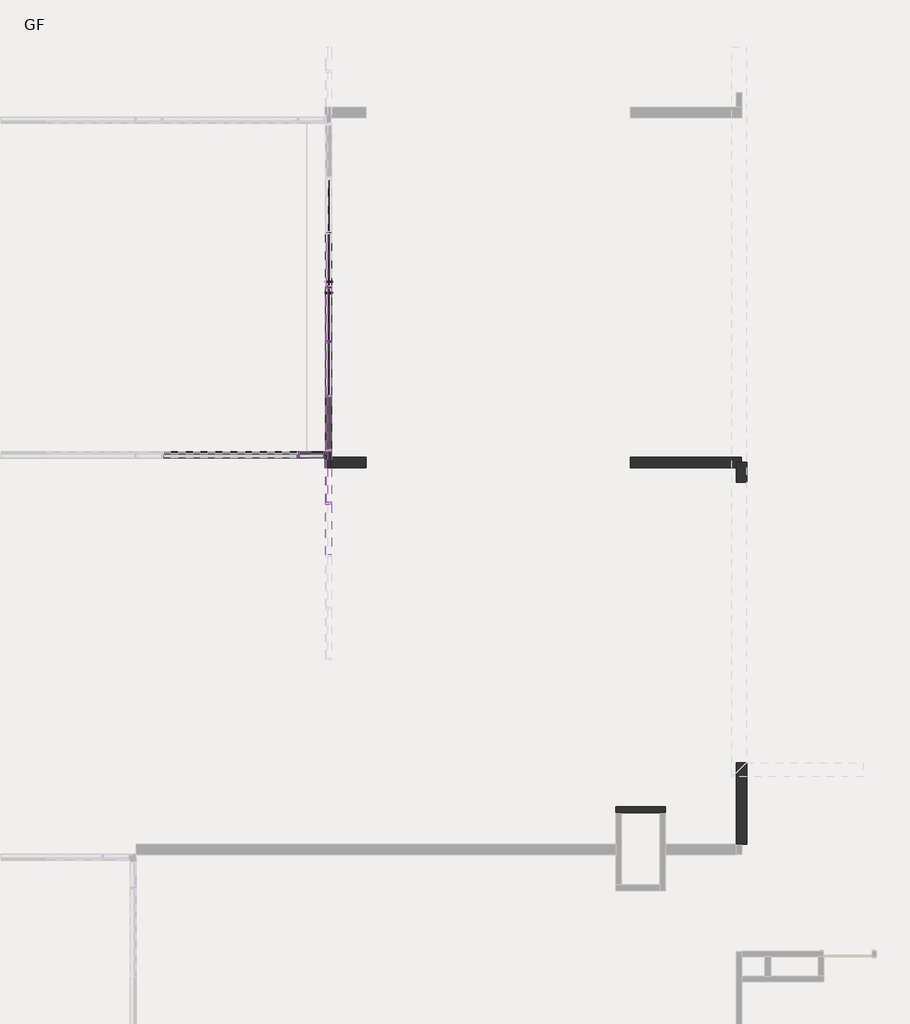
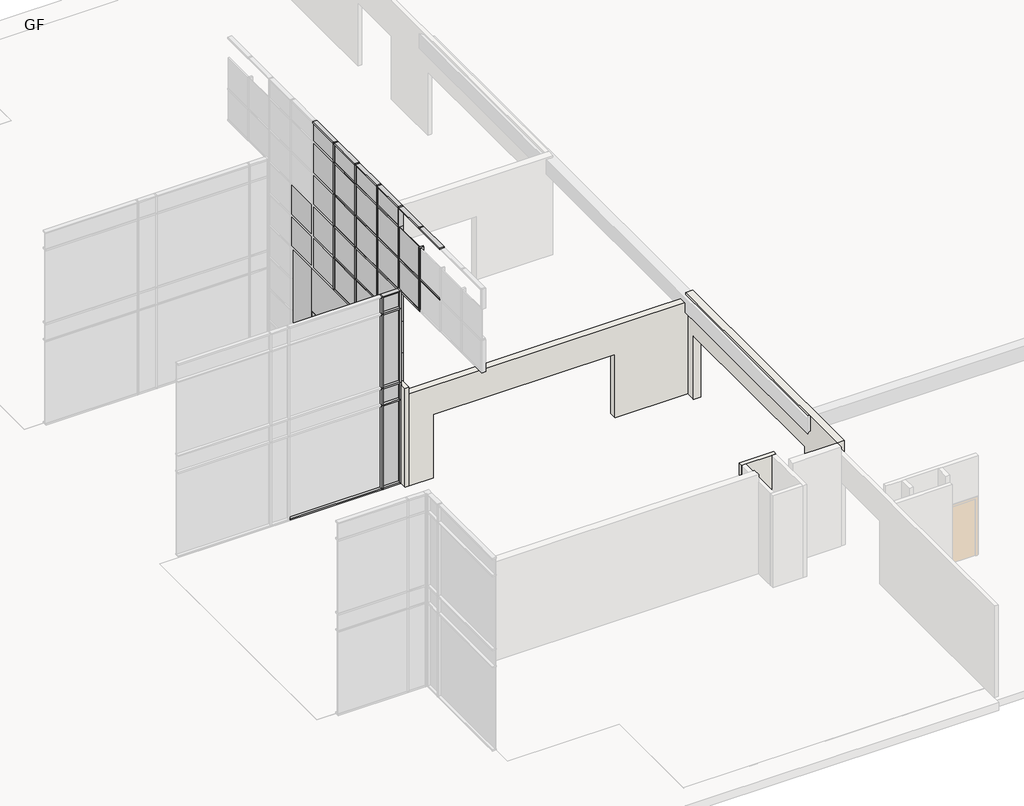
# One storey, part 6 of 23: 77 members, 33 plates, 4 walls.
"""IFC4 building model written with IfcOpenShell, lengths in millimetres."""

from ifc_helpers import new_model, si_unit, origin, place, context, project, spatial, faceted_brep, transform, mapped, element, save
from components import rectangular_mullion_50_x_150mm_68b3818a, rectangular_mullion_50_x_150mm_64d38db8, rectangular_mullion_50_x_150mm_d11e3bb4, rectangular_mullion_50_x_150mm_7d543e93, rectangular_mullion_50_x_150mm_9e0f1e24, rectangular_mullion_50_x_150mm_9b8962c0, rectangular_mullion_50_x_150mm_32aaa733, rectangular_mullion_50_x_150mm_dbb82e9e, rectangular_mullion_50_x_150mm_eae7d4bc, rectangular_mullion_50_x_150mm_53b4c1bd, rectangular_mullion_50_x_150mm_a5886fcf, rectangular_mullion_50_x_150mm_d99dc9be, rectangular_mullion_50_x_150mm_6588f46c, rectangular_mullion_50_x_150mm_73a7075e, rectangular_mullion_50_x_150mm_eaf4cf72, rectangular_mullion_50_x_150mm_0d3281e4, rectangular_mullion_50_x_150mm_457f9466, rectangular_mullion_50_x_150mm_a24dcaed, rectangular_mullion_50_x_150mm_2a846207, rectangular_mullion_50_x_150mm_b683183c, rectangular_mullion_50_x_150mm_bb4106bb, rectangular_mullion_50_x_150mm_ab14a89a, curtain_wall_interior_partition_with_doors_m_interior_a32743dc, system_panel_glazed_6ff5b55b, system_panel_glazed_93ed122c, system_panel_glazed_2ee935f9, system_panel_glazed_4108eabc, system_panel_glazed_0d58ddbb, system_panel_glazed_15d9a341, system_panel_glazed_6cc28878, system_panel_glazed_1cdce68f

model = new_model("IFC4")

# Units and contexts
model_context = context("Model", 3, world=origin())
ifc_project = project(units=[si_unit("LENGTHUNIT", "METRE", prefix="MILLI")], contexts=[model_context])

# Site, building, storey
site = spatial("IfcSite", under=ifc_project)
building = spatial("IfcBuilding", under=site)
storey = spatial("IfcBuildingStorey", under=building, Name="GF", Elevation=900.0)

# Members
placement = place(None, origin())
rectangular_mullion_50_x_150mm_shape = rectangular_mullion_50_x_150mm_68b3818a(model_context)
element("IfcMember", 1, ObjectType="Rectangular Mullion : 50 x 150mm", at=placement, inside=storey, context=model_context, shape_type="MappedRepresentation", body=[
    mapped(rectangular_mullion_50_x_150mm_shape, transform((-31537.5865899, -6397.6148653, 7525.0), x_axis=(0.0, 0.0, 1.0), y_axis=(0.0, 1.0, 0.0), z_axis=(-1.0, 0.0, 0.0))),
])
element("IfcMember", 2, ObjectType="Rectangular Mullion : 50 x 150mm", at=placement, inside=storey, context=model_context, shape_type="MappedRepresentation", body=[
    mapped(rectangular_mullion_50_x_150mm_shape, transform((-31537.5865899, -6397.6148653, 4075.0), x_axis=(0.0, 0.0, 1.0), y_axis=(0.0, 1.0, 0.0), z_axis=(-1.0, 0.0, 0.0))),
])
element("IfcMember", 3, ObjectType="Rectangular Mullion : 50 x 150mm", at=placement, inside=storey, context=model_context, shape_type="MappedRepresentation", body=[
    mapped(rectangular_mullion_50_x_150mm_shape, transform((-31537.5865899, -6397.6148653, 4725.0), x_axis=(0.0, 0.0, 1.0), y_axis=(0.0, 1.0, 0.0), z_axis=(-1.0, 0.0, 0.0))),
])
rectangular_mullion_50_x_150mm_2_shape = rectangular_mullion_50_x_150mm_64d38db8(model_context)
element("IfcMember", 4, ObjectType="Rectangular Mullion : 50 x 150mm", at=placement, inside=storey, context=model_context, shape_type="MappedRepresentation", body=[
    mapped(rectangular_mullion_50_x_150mm_2_shape, transform((-31537.5865899, -6397.6148653, 8200.0), x_axis=(0.0, 0.0, 1.0), y_axis=(0.0, 1.0, 0.0), z_axis=(-1.0, 0.0, 0.0))),
])
element("IfcMember", 5, ObjectType="Rectangular Mullion : 50 x 150mm", at=placement, inside=storey, context=model_context, shape_type="MappedRepresentation", body=[
    mapped(rectangular_mullion_50_x_150mm_2_shape, transform((-30937.5865899, -6397.6148653, 900.0), x_axis=(0.0, 0.0, -1.0), y_axis=(0.0, 1.0, 0.0), z_axis=(1.0, 0.0, 0.0))),
])
rectangular_mullion_50_x_150mm_3_shape = rectangular_mullion_50_x_150mm_d11e3bb4(model_context)
element("IfcMember", 6, ObjectType="Rectangular Mullion : 50 x 150mm", at=placement, inside=storey, context=model_context, shape_type="MappedRepresentation", body=[
    mapped(rectangular_mullion_50_x_150mm_3_shape, transform((-31562.5865899, -6397.6148653, 4725.0), x_axis=(-1.0, 0.0, 0.0), y_axis=(0.0, 1.0, 0.0), z_axis=(0.0, 0.0, -1.0))),
])
rectangular_mullion_50_x_150mm_4_shape = rectangular_mullion_50_x_150mm_7d543e93(model_context)
element("IfcMember", 7, ObjectType="Rectangular Mullion : 50 x 150mm", at=placement, inside=storey, context=model_context, shape_type="MappedRepresentation", body=[
    mapped(rectangular_mullion_50_x_150mm_4_shape, transform((-31562.5865899, -6397.6148653, 4075.0), x_axis=(-1.0, 0.0, 0.0), y_axis=(0.0, 1.0, 0.0), z_axis=(0.0, 0.0, -1.0))),
])
rectangular_mullion_50_x_150mm_5_shape = rectangular_mullion_50_x_150mm_9e0f1e24(model_context)
element("IfcMember", 8, ObjectType="Rectangular Mullion : 50 x 150mm", at=placement, inside=storey, context=model_context, shape_type="MappedRepresentation", body=[
    mapped(rectangular_mullion_50_x_150mm_5_shape, transform((-31562.5865899, -6397.6148653, 7525.0), x_axis=(-1.0, 0.0, 0.0), y_axis=(0.0, 1.0, 0.0), z_axis=(0.0, 0.0, -1.0))),
])
rectangular_mullion_50_x_150mm_6_shape = rectangular_mullion_50_x_150mm_9b8962c0(model_context)
element("IfcMember", 9, ObjectType="Rectangular Mullion : 50 x 150mm", at=placement, inside=storey, context=model_context, shape_type="MappedRepresentation", body=[
    mapped(rectangular_mullion_50_x_150mm_6_shape, transform((-30887.5865899, -6397.6148653, 4725.0), x_axis=(1.0, 0.0, 0.0), y_axis=(0.0, 1.0, 0.0), z_axis=(0.0, 0.0, 1.0))),
])
rectangular_mullion_50_x_150mm_7_shape = rectangular_mullion_50_x_150mm_32aaa733(model_context)
element("IfcMember", 10, ObjectType="Rectangular Mullion : 50 x 150mm", at=placement, inside=storey, context=model_context, shape_type="MappedRepresentation", body=[
    mapped(rectangular_mullion_50_x_150mm_7_shape, transform((-30887.5865899, -6397.6148653, 7525.0), x_axis=(1.0, 0.0, 0.0), y_axis=(0.0, 1.0, 0.0), z_axis=(0.0, 0.0, 1.0))),
])
rectangular_mullion_50_x_150mm_8_shape = rectangular_mullion_50_x_150mm_dbb82e9e(model_context)
element("IfcMember", 11, ObjectType="Rectangular Mullion : 50 x 150mm", at=placement, inside=storey, context=model_context, shape_type="MappedRepresentation", body=[
    mapped(rectangular_mullion_50_x_150mm_8_shape, transform((-30887.5865899, -6397.6148653, 8200.0), x_axis=(1.0, 0.0, 0.0), y_axis=(0.0, 1.0, 0.0), z_axis=(0.0, 0.0, 1.0))),
])
rectangular_mullion_50_x_150mm_9_shape = rectangular_mullion_50_x_150mm_eae7d4bc(model_context)
element("IfcMember", 12, ObjectType="Rectangular Mullion : 50 x 150mm", at=placement, inside=storey, context=model_context, shape_type="MappedRepresentation", body=[
    mapped(rectangular_mullion_50_x_150mm_9_shape, transform((-31562.5865899, -6397.6148653, 900.0), x_axis=(-1.0, 0.0, 0.0), y_axis=(0.0, 1.0, 0.0), z_axis=(0.0, 0.0, -1.0))),
])
rectangular_mullion_50_x_150mm_10_shape = rectangular_mullion_50_x_150mm_53b4c1bd(model_context)
element("IfcMember", 13, ObjectType="Rectangular Mullion : 50 x 150mm", at=placement, inside=storey, context=model_context, shape_type="MappedRepresentation", body=[
    mapped(rectangular_mullion_50_x_150mm_10_shape, transform((-30812.5865899, -4985.9481986, 11250.0), x_axis=(0.0, 0.0, 1.0), y_axis=(1.0, 0.0, 0.0), z_axis=(0.0, 1.0, 0.0))),
])
element("IfcMember", 14, ObjectType="Rectangular Mullion : 50 x 150mm", at=placement, inside=storey, context=model_context, shape_type="MappedRepresentation", body=[
    mapped(rectangular_mullion_50_x_150mm_10_shape, transform((-30812.5865899, -3649.2815319, 11250.0), x_axis=(0.0, 0.0, 1.0), y_axis=(1.0, 0.0, 0.0), z_axis=(0.0, 1.0, 0.0))),
])
element("IfcMember", 15, ObjectType="Rectangular Mullion : 50 x 150mm", at=placement, inside=storey, context=model_context, shape_type="MappedRepresentation", body=[
    mapped(rectangular_mullion_50_x_150mm_10_shape, transform((-30812.5865899, -2312.6148653, 11250.0), x_axis=(0.0, 0.0, 1.0), y_axis=(1.0, 0.0, 0.0), z_axis=(0.0, 1.0, 0.0))),
])
element("IfcMember", 16, ObjectType="Rectangular Mullion : 50 x 150mm", at=placement, inside=storey, context=model_context, shape_type="MappedRepresentation", body=[
    mapped(rectangular_mullion_50_x_150mm_10_shape, transform((-30812.5865899, -975.9481986, 11250.0), x_axis=(0.0, 0.0, 1.0), y_axis=(1.0, 0.0, 0.0), z_axis=(0.0, 1.0, 0.0))),
])
rectangular_mullion_50_x_150mm_11_shape = rectangular_mullion_50_x_150mm_a5886fcf(model_context)
element("IfcMember", 17, ObjectType="Rectangular Mullion : 50 x 150mm", at=placement, inside=storey, context=model_context, shape_type="MappedRepresentation", body=[
    mapped(rectangular_mullion_50_x_150mm_11_shape, transform((-30812.5865899, -4985.9481986, 9300.0), x_axis=(0.0, 0.0, 1.0), y_axis=(1.0, 0.0, 0.0), z_axis=(0.0, 1.0, 0.0))),
])
element("IfcMember", 18, ObjectType="Rectangular Mullion : 50 x 150mm", at=placement, inside=storey, context=model_context, shape_type="MappedRepresentation", body=[
    mapped(rectangular_mullion_50_x_150mm_11_shape, transform((-30812.5865899, -3649.2815319, 9300.0), x_axis=(0.0, 0.0, 1.0), y_axis=(1.0, 0.0, 0.0), z_axis=(0.0, 1.0, 0.0))),
])
element("IfcMember", 19, ObjectType="Rectangular Mullion : 50 x 150mm", at=placement, inside=storey, context=model_context, shape_type="MappedRepresentation", body=[
    mapped(rectangular_mullion_50_x_150mm_11_shape, transform((-30812.5865899, -2312.6148653, 9300.0), x_axis=(0.0, 0.0, 1.0), y_axis=(1.0, 0.0, 0.0), z_axis=(0.0, 1.0, 0.0))),
])
element("IfcMember", 20, ObjectType="Rectangular Mullion : 50 x 150mm", at=placement, inside=storey, context=model_context, shape_type="MappedRepresentation", body=[
    mapped(rectangular_mullion_50_x_150mm_11_shape, transform((-30812.5865899, -4985.9481986, 10500.0), x_axis=(0.0, 0.0, 1.0), y_axis=(1.0, 0.0, 0.0), z_axis=(0.0, 1.0, 0.0))),
])
element("IfcMember", 21, ObjectType="Rectangular Mullion : 50 x 150mm", at=placement, inside=storey, context=model_context, shape_type="MappedRepresentation", body=[
    mapped(rectangular_mullion_50_x_150mm_11_shape, transform((-30812.5865899, -3649.2815319, 10500.0), x_axis=(0.0, 0.0, 1.0), y_axis=(1.0, 0.0, 0.0), z_axis=(0.0, 1.0, 0.0))),
])
element("IfcMember", 22, ObjectType="Rectangular Mullion : 50 x 150mm", at=placement, inside=storey, context=model_context, shape_type="MappedRepresentation", body=[
    mapped(rectangular_mullion_50_x_150mm_11_shape, transform((-30812.5865899, -2312.6148653, 10500.0), x_axis=(0.0, 0.0, 1.0), y_axis=(1.0, 0.0, 0.0), z_axis=(0.0, 1.0, 0.0))),
])
element("IfcMember", 23, ObjectType="Rectangular Mullion : 50 x 150mm", at=placement, inside=storey, context=model_context, shape_type="MappedRepresentation", body=[
    mapped(rectangular_mullion_50_x_150mm_11_shape, transform((-30812.5865899, -4985.9481986, 3300.0), x_axis=(0.0, 0.0, 1.0), y_axis=(1.0, 0.0, 0.0), z_axis=(0.0, 1.0, 0.0))),
])
element("IfcMember", 24, ObjectType="Rectangular Mullion : 50 x 150mm", at=placement, inside=storey, context=model_context, shape_type="MappedRepresentation", body=[
    mapped(rectangular_mullion_50_x_150mm_11_shape, transform((-30812.5865899, -4985.9481986, 4500.0), x_axis=(0.0, 0.0, 1.0), y_axis=(1.0, 0.0, 0.0), z_axis=(0.0, 1.0, 0.0))),
])
element("IfcMember", 25, ObjectType="Rectangular Mullion : 50 x 150mm", at=placement, inside=storey, context=model_context, shape_type="MappedRepresentation", body=[
    mapped(rectangular_mullion_50_x_150mm_11_shape, transform((-30812.5865899, -3649.2815319, 5700.0), x_axis=(0.0, 0.0, 1.0), y_axis=(1.0, 0.0, 0.0), z_axis=(0.0, 1.0, 0.0))),
])
element("IfcMember", 26, ObjectType="Rectangular Mullion : 50 x 150mm", at=placement, inside=storey, context=model_context, shape_type="MappedRepresentation", body=[
    mapped(rectangular_mullion_50_x_150mm_11_shape, transform((-30812.5865899, -2312.6148653, 5700.0), x_axis=(0.0, 0.0, 1.0), y_axis=(1.0, 0.0, 0.0), z_axis=(0.0, 1.0, 0.0))),
])
element("IfcMember", 27, ObjectType="Rectangular Mullion : 50 x 150mm", at=placement, inside=storey, context=model_context, shape_type="MappedRepresentation", body=[
    mapped(rectangular_mullion_50_x_150mm_11_shape, transform((-30812.5865899, -4985.9481986, 6900.0), x_axis=(0.0, 0.0, 1.0), y_axis=(1.0, 0.0, 0.0), z_axis=(0.0, 1.0, 0.0))),
])
element("IfcMember", 28, ObjectType="Rectangular Mullion : 50 x 150mm", at=placement, inside=storey, context=model_context, shape_type="MappedRepresentation", body=[
    mapped(rectangular_mullion_50_x_150mm_11_shape, transform((-30812.5865899, -3649.2815319, 6900.0), x_axis=(0.0, 0.0, 1.0), y_axis=(1.0, 0.0, 0.0), z_axis=(0.0, 1.0, 0.0))),
])
element("IfcMember", 29, ObjectType="Rectangular Mullion : 50 x 150mm", at=placement, inside=storey, context=model_context, shape_type="MappedRepresentation", body=[
    mapped(rectangular_mullion_50_x_150mm_11_shape, transform((-30812.5865899, -2312.6148653, 6900.0), x_axis=(0.0, 0.0, 1.0), y_axis=(1.0, 0.0, 0.0), z_axis=(0.0, 1.0, 0.0))),
])
element("IfcMember", 30, ObjectType="Rectangular Mullion : 50 x 150mm", at=placement, inside=storey, context=model_context, shape_type="MappedRepresentation", body=[
    mapped(rectangular_mullion_50_x_150mm_11_shape, transform((-30812.5865899, -4985.9481986, 8100.0), x_axis=(0.0, 0.0, 1.0), y_axis=(1.0, 0.0, 0.0), z_axis=(0.0, 1.0, 0.0))),
])
element("IfcMember", 31, ObjectType="Rectangular Mullion : 50 x 150mm", at=placement, inside=storey, context=model_context, shape_type="MappedRepresentation", body=[
    mapped(rectangular_mullion_50_x_150mm_11_shape, transform((-30812.5865899, -3649.2815319, 8100.0), x_axis=(0.0, 0.0, 1.0), y_axis=(1.0, 0.0, 0.0), z_axis=(0.0, 1.0, 0.0))),
])
element("IfcMember", 32, ObjectType="Rectangular Mullion : 50 x 150mm", at=placement, inside=storey, context=model_context, shape_type="MappedRepresentation", body=[
    mapped(rectangular_mullion_50_x_150mm_11_shape, transform((-30812.5865899, -2312.6148653, 8100.0), x_axis=(0.0, 0.0, 1.0), y_axis=(1.0, 0.0, 0.0), z_axis=(0.0, 1.0, 0.0))),
])
element("IfcMember", 33, ObjectType="Rectangular Mullion : 50 x 150mm", at=placement, inside=storey, context=model_context, shape_type="MappedRepresentation", body=[
    mapped(rectangular_mullion_50_x_150mm_11_shape, transform((-30812.5865899, -4985.9481986, 2100.0), x_axis=(0.0, 0.0, 1.0), y_axis=(1.0, 0.0, 0.0), z_axis=(0.0, 1.0, 0.0))),
])
element("IfcMember", 34, ObjectType="Rectangular Mullion : 50 x 150mm", at=placement, inside=storey, context=model_context, shape_type="MappedRepresentation", body=[
    mapped(rectangular_mullion_50_x_150mm_11_shape, transform((-30812.5865899, -4985.9481986, 5700.0), x_axis=(0.0, 0.0, 1.0), y_axis=(1.0, 0.0, 0.0), z_axis=(0.0, 1.0, 0.0))),
])
rectangular_mullion_50_x_150mm_12_shape = rectangular_mullion_50_x_150mm_d99dc9be(model_context)
element("IfcMember", 35, ObjectType="Rectangular Mullion : 50 x 150mm", at=placement, inside=storey, context=model_context, shape_type="MappedRepresentation", body=[
    mapped(rectangular_mullion_50_x_150mm_12_shape, transform((-30812.5865899, -7592.2398653, 8100.0), x_axis=(0.0, 1.0, 0.0), y_axis=(1.0, 0.0, 0.0), z_axis=(0.0, 0.0, -1.0))),
])
element("IfcMember", 36, ObjectType="Rectangular Mullion : 50 x 150mm", at=placement, inside=storey, context=model_context, shape_type="MappedRepresentation", body=[
    mapped(rectangular_mullion_50_x_150mm_12_shape, transform((-30812.5865899, -4960.9481986, 900.0), x_axis=(0.0, 1.0, 0.0), y_axis=(1.0, 0.0, 0.0), z_axis=(0.0, 0.0, -1.0))),
])
element("IfcMember", 37, ObjectType="Rectangular Mullion : 50 x 150mm", at=placement, inside=storey, context=model_context, shape_type="MappedRepresentation", body=[
    mapped(rectangular_mullion_50_x_150mm_12_shape, transform((-30812.5865899, -7592.2398653, 9300.0), x_axis=(0.0, 1.0, 0.0), y_axis=(1.0, 0.0, 0.0), z_axis=(0.0, 0.0, -1.0))),
])
element("IfcMember", 38, ObjectType="Rectangular Mullion : 50 x 150mm", at=placement, inside=storey, context=model_context, shape_type="MappedRepresentation", body=[
    mapped(rectangular_mullion_50_x_150mm_12_shape, transform((-30812.5865899, -4960.9481986, 8100.0), x_axis=(0.0, 1.0, 0.0), y_axis=(1.0, 0.0, 0.0), z_axis=(0.0, 0.0, -1.0))),
])
element("IfcMember", 39, ObjectType="Rectangular Mullion : 50 x 150mm", at=placement, inside=storey, context=model_context, shape_type="MappedRepresentation", body=[
    mapped(rectangular_mullion_50_x_150mm_12_shape, transform((-30812.5865899, -4960.9481986, 9300.0), x_axis=(0.0, 1.0, 0.0), y_axis=(1.0, 0.0, 0.0), z_axis=(0.0, 0.0, -1.0))),
])
element("IfcMember", 40, ObjectType="Rectangular Mullion : 50 x 150mm", at=placement, inside=storey, context=model_context, shape_type="MappedRepresentation", body=[
    mapped(rectangular_mullion_50_x_150mm_12_shape, transform((-30812.5865899, -3624.2815319, 8100.0), x_axis=(0.0, 1.0, 0.0), y_axis=(1.0, 0.0, 0.0), z_axis=(0.0, 0.0, -1.0))),
])
element("IfcMember", 41, ObjectType="Rectangular Mullion : 50 x 150mm", at=placement, inside=storey, context=model_context, shape_type="MappedRepresentation", body=[
    mapped(rectangular_mullion_50_x_150mm_12_shape, transform((-30812.5865899, -3624.2815319, 9300.0), x_axis=(0.0, 1.0, 0.0), y_axis=(1.0, 0.0, 0.0), z_axis=(0.0, 0.0, -1.0))),
])
element("IfcMember", 42, ObjectType="Rectangular Mullion : 50 x 150mm", at=placement, inside=storey, context=model_context, shape_type="MappedRepresentation", body=[
    mapped(rectangular_mullion_50_x_150mm_12_shape, transform((-30812.5865899, -2287.6148653, 8100.0), x_axis=(0.0, 1.0, 0.0), y_axis=(1.0, 0.0, 0.0), z_axis=(0.0, 0.0, -1.0))),
])
element("IfcMember", 43, ObjectType="Rectangular Mullion : 50 x 150mm", at=placement, inside=storey, context=model_context, shape_type="MappedRepresentation", body=[
    mapped(rectangular_mullion_50_x_150mm_12_shape, transform((-30812.5865899, -2287.6148653, 9300.0), x_axis=(0.0, 1.0, 0.0), y_axis=(1.0, 0.0, 0.0), z_axis=(0.0, 0.0, -1.0))),
])
element("IfcMember", 44, ObjectType="Rectangular Mullion : 50 x 150mm", at=placement, inside=storey, context=model_context, shape_type="MappedRepresentation", body=[
    mapped(rectangular_mullion_50_x_150mm_12_shape, transform((-30812.5865899, -4960.9481986, 2100.0), x_axis=(0.0, 1.0, 0.0), y_axis=(1.0, 0.0, 0.0), z_axis=(0.0, 0.0, -1.0))),
])
element("IfcMember", 45, ObjectType="Rectangular Mullion : 50 x 150mm", at=placement, inside=storey, context=model_context, shape_type="MappedRepresentation", body=[
    mapped(rectangular_mullion_50_x_150mm_12_shape, transform((-30812.5865899, -4960.9481986, 3300.0), x_axis=(0.0, 1.0, 0.0), y_axis=(1.0, 0.0, 0.0), z_axis=(0.0, 0.0, -1.0))),
])
element("IfcMember", 46, ObjectType="Rectangular Mullion : 50 x 150mm", at=placement, inside=storey, context=model_context, shape_type="MappedRepresentation", body=[
    mapped(rectangular_mullion_50_x_150mm_12_shape, transform((-30812.5865899, -4960.9481986, 4500.0), x_axis=(0.0, 1.0, 0.0), y_axis=(1.0, 0.0, 0.0), z_axis=(0.0, 0.0, -1.0))),
])
element("IfcMember", 47, ObjectType="Rectangular Mullion : 50 x 150mm", at=placement, inside=storey, context=model_context, shape_type="MappedRepresentation", body=[
    mapped(rectangular_mullion_50_x_150mm_12_shape, transform((-30812.5865899, -4960.9481986, 5700.0), x_axis=(0.0, 1.0, 0.0), y_axis=(1.0, 0.0, 0.0), z_axis=(0.0, 0.0, -1.0))),
])
element("IfcMember", 48, ObjectType="Rectangular Mullion : 50 x 150mm", at=placement, inside=storey, context=model_context, shape_type="MappedRepresentation", body=[
    mapped(rectangular_mullion_50_x_150mm_12_shape, transform((-30812.5865899, -4960.9481986, 6900.0), x_axis=(0.0, 1.0, 0.0), y_axis=(1.0, 0.0, 0.0), z_axis=(0.0, 0.0, -1.0))),
])
element("IfcMember", 49, ObjectType="Rectangular Mullion : 50 x 150mm", at=placement, inside=storey, context=model_context, shape_type="MappedRepresentation", body=[
    mapped(rectangular_mullion_50_x_150mm_12_shape, transform((-30812.5865899, -3624.2815319, 6900.0), x_axis=(0.0, 1.0, 0.0), y_axis=(1.0, 0.0, 0.0), z_axis=(0.0, 0.0, -1.0))),
])
element("IfcMember", 50, ObjectType="Rectangular Mullion : 50 x 150mm", at=placement, inside=storey, context=model_context, shape_type="MappedRepresentation", body=[
    mapped(rectangular_mullion_50_x_150mm_12_shape, transform((-30812.5865899, -2287.6148653, 6900.0), x_axis=(0.0, 1.0, 0.0), y_axis=(1.0, 0.0, 0.0), z_axis=(0.0, 0.0, -1.0))),
])
rectangular_mullion_50_x_150mm_13_shape = rectangular_mullion_50_x_150mm_6588f46c(model_context)
element("IfcMember", 51, ObjectType="Rectangular Mullion : 50 x 150mm", at=placement, inside=storey, context=model_context, shape_type="MappedRepresentation", body=[
    mapped(rectangular_mullion_50_x_150mm_13_shape, transform((-30812.5865899, -6272.6148653, 8100.0), x_axis=(0.0, 1.0, 0.0), y_axis=(1.0, 0.0, 0.0), z_axis=(0.0, 0.0, -1.0))),
])
element("IfcMember", 52, ObjectType="Rectangular Mullion : 50 x 150mm", at=placement, inside=storey, context=model_context, shape_type="MappedRepresentation", body=[
    mapped(rectangular_mullion_50_x_150mm_13_shape, transform((-30812.5865899, -6272.6148653, 9300.0), x_axis=(0.0, 1.0, 0.0), y_axis=(1.0, 0.0, 0.0), z_axis=(0.0, 0.0, -1.0))),
])
element("IfcMember", 53, ObjectType="Rectangular Mullion : 50 x 150mm", at=placement, inside=storey, context=model_context, shape_type="MappedRepresentation", body=[
    mapped(rectangular_mullion_50_x_150mm_13_shape, transform((-30812.5865899, -6322.6148653, 2100.0), x_axis=(0.0, -1.0, 0.0), y_axis=(1.0, 0.0, 0.0), z_axis=(0.0, 0.0, 1.0))),
])
element("IfcMember", 54, ObjectType="Rectangular Mullion : 50 x 150mm", at=placement, inside=storey, context=model_context, shape_type="MappedRepresentation", body=[
    mapped(rectangular_mullion_50_x_150mm_13_shape, transform((-30812.5865899, -6322.6148653, 3300.0), x_axis=(0.0, -1.0, 0.0), y_axis=(1.0, 0.0, 0.0), z_axis=(0.0, 0.0, 1.0))),
])
element("IfcMember", 55, ObjectType="Rectangular Mullion : 50 x 150mm", at=placement, inside=storey, context=model_context, shape_type="MappedRepresentation", body=[
    mapped(rectangular_mullion_50_x_150mm_13_shape, transform((-30812.5865899, -6322.6148653, 4500.0), x_axis=(0.0, -1.0, 0.0), y_axis=(1.0, 0.0, 0.0), z_axis=(0.0, 0.0, 1.0))),
])
element("IfcMember", 56, ObjectType="Rectangular Mullion : 50 x 150mm", at=placement, inside=storey, context=model_context, shape_type="MappedRepresentation", body=[
    mapped(rectangular_mullion_50_x_150mm_13_shape, transform((-30812.5865899, -6322.6148653, 5700.0), x_axis=(0.0, -1.0, 0.0), y_axis=(1.0, 0.0, 0.0), z_axis=(0.0, 0.0, 1.0))),
])
element("IfcMember", 57, ObjectType="Rectangular Mullion : 50 x 150mm", at=placement, inside=storey, context=model_context, shape_type="MappedRepresentation", body=[
    mapped(rectangular_mullion_50_x_150mm_13_shape, transform((-30812.5865899, -6322.6148653, 6900.0), x_axis=(0.0, -1.0, 0.0), y_axis=(1.0, 0.0, 0.0), z_axis=(0.0, 0.0, 1.0))),
])
element("IfcMember", 58, ObjectType="Rectangular Mullion : 50 x 150mm", at=placement, inside=storey, context=model_context, shape_type="MappedRepresentation", body=[
    mapped(rectangular_mullion_50_x_150mm_13_shape, transform((-30812.5865899, -6322.6148653, 8100.0), x_axis=(0.0, -1.0, 0.0), y_axis=(1.0, 0.0, 0.0), z_axis=(0.0, 0.0, 1.0))),
])
element("IfcMember", 59, ObjectType="Rectangular Mullion : 50 x 150mm", at=placement, inside=storey, context=model_context, shape_type="MappedRepresentation", body=[
    mapped(rectangular_mullion_50_x_150mm_13_shape, transform((-30812.5865899, -6322.6148653, 9300.0), x_axis=(0.0, -1.0, 0.0), y_axis=(1.0, 0.0, 0.0), z_axis=(0.0, 0.0, 1.0))),
])
element("IfcMember", 60, ObjectType="Rectangular Mullion : 50 x 150mm", at=placement, inside=storey, context=model_context, shape_type="MappedRepresentation", body=[
    mapped(rectangular_mullion_50_x_150mm_13_shape, transform((-30812.5865899, -6322.6148653, 10500.0), x_axis=(0.0, -1.0, 0.0), y_axis=(1.0, 0.0, 0.0), z_axis=(0.0, 0.0, 1.0))),
])
rectangular_mullion_50_x_150mm_14_shape = rectangular_mullion_50_x_150mm_73a7075e(model_context)
element("IfcMember", 61, ObjectType="Rectangular Mullion : 50 x 150mm", at=placement, inside=storey, context=model_context, shape_type="MappedRepresentation", body=[
    mapped(rectangular_mullion_50_x_150mm_14_shape, transform((-31587.5865899, -6397.6148653, 900.0), x_axis=(0.0, 0.0, -1.0), y_axis=(0.0, 1.0, 0.0), z_axis=(1.0, 0.0, 0.0))),
])
rectangular_mullion_50_x_150mm_15_shape = rectangular_mullion_50_x_150mm_eaf4cf72(model_context)
element("IfcMember", 62, ObjectType="Rectangular Mullion : 50 x 150mm", at=placement, inside=storey, context=model_context, shape_type="MappedRepresentation", body=[
    mapped(rectangular_mullion_50_x_150mm_15_shape, transform((-30887.5865899, -6397.6148653, 4075.0), x_axis=(1.0, 0.0, 0.0), y_axis=(0.0, 1.0, 0.0), z_axis=(0.0, 0.0, 1.0))),
])
rectangular_mullion_50_x_150mm_16_shape = rectangular_mullion_50_x_150mm_0d3281e4(model_context)
element("IfcMember", 63, ObjectType="Rectangular Mullion : 50 x 150mm", at=placement, inside=storey, context=model_context, shape_type="MappedRepresentation", body=[
    mapped(rectangular_mullion_50_x_150mm_16_shape, transform((-30812.5865899, -6322.6148653, 11250.0), x_axis=(0.0, -1.0, 0.0), y_axis=(1.0, 0.0, 0.0), z_axis=(0.0, 0.0, 1.0))),
])
rectangular_mullion_50_x_150mm_17_shape = rectangular_mullion_50_x_150mm_457f9466(model_context)
element("IfcMember", 64, ObjectType="Rectangular Mullion : 50 x 150mm", at=placement, inside=storey, context=model_context, shape_type="MappedRepresentation", body=[
    mapped(rectangular_mullion_50_x_150mm_17_shape, transform((-30812.5865899, -4960.9481986, 10500.0), x_axis=(0.0, 1.0, 0.0), y_axis=(1.0, 0.0, 0.0), z_axis=(0.0, 0.0, -1.0))),
])
element("IfcMember", 65, ObjectType="Rectangular Mullion : 50 x 150mm", at=placement, inside=storey, context=model_context, shape_type="MappedRepresentation", body=[
    mapped(rectangular_mullion_50_x_150mm_17_shape, transform((-30812.5865899, -3624.2815319, 10500.0), x_axis=(0.0, 1.0, 0.0), y_axis=(1.0, 0.0, 0.0), z_axis=(0.0, 0.0, -1.0))),
])
element("IfcMember", 66, ObjectType="Rectangular Mullion : 50 x 150mm", at=placement, inside=storey, context=model_context, shape_type="MappedRepresentation", body=[
    mapped(rectangular_mullion_50_x_150mm_17_shape, transform((-30812.5865899, -2287.6148653, 10500.0), x_axis=(0.0, 1.0, 0.0), y_axis=(1.0, 0.0, 0.0), z_axis=(0.0, 0.0, -1.0))),
])
rectangular_mullion_50_x_150mm_18_shape = rectangular_mullion_50_x_150mm_a24dcaed(model_context)
element("IfcMember", 67, ObjectType="Rectangular Mullion : 50 x 150mm", at=placement, inside=storey, context=model_context, shape_type="MappedRepresentation", body=[
    mapped(rectangular_mullion_50_x_150mm_18_shape, transform((-30812.5865899, -6322.6148653, 11250.0), x_axis=(0.0, 0.0, 1.0), y_axis=(1.0, 0.0, 0.0), z_axis=(0.0, 1.0, 0.0))),
])
element("IfcMember", 68, ObjectType="Rectangular Mullion : 50 x 150mm", at=placement, inside=storey, context=model_context, shape_type="MappedRepresentation", body=[
    mapped(rectangular_mullion_50_x_150mm_18_shape, transform((-30812.5865899, -7617.2398653, 11250.0), x_axis=(0.0, 0.0, 1.0), y_axis=(1.0, 0.0, 0.0), z_axis=(0.0, 1.0, 0.0))),
])
element("IfcMember", 69, ObjectType="Rectangular Mullion : 50 x 150mm", at=placement, inside=storey, context=model_context, shape_type="MappedRepresentation", body=[
    mapped(rectangular_mullion_50_x_150mm_18_shape, transform((-30812.5865899, -7567.2398653, 8100.0), x_axis=(0.0, 0.0, -1.0), y_axis=(1.0, 0.0, 0.0), z_axis=(0.0, -1.0, 0.0))),
])
rectangular_mullion_50_x_150mm_19_shape = rectangular_mullion_50_x_150mm_2a846207(model_context)
element("IfcMember", 70, ObjectType="Rectangular Mullion : 50 x 150mm", at=placement, inside=storey, context=model_context, shape_type="MappedRepresentation", body=[
    mapped(rectangular_mullion_50_x_150mm_19_shape, transform((-30812.5865899, -7617.2398653, 9300.0), x_axis=(0.0, 0.0, 1.0), y_axis=(1.0, 0.0, 0.0), z_axis=(0.0, 1.0, 0.0))),
])
element("IfcMember", 71, ObjectType="Rectangular Mullion : 50 x 150mm", at=placement, inside=storey, context=model_context, shape_type="MappedRepresentation", body=[
    mapped(rectangular_mullion_50_x_150mm_19_shape, transform((-30812.5865899, -6322.6148653, 9300.0), x_axis=(0.0, 0.0, 1.0), y_axis=(1.0, 0.0, 0.0), z_axis=(0.0, 1.0, 0.0))),
])
rectangular_mullion_50_x_150mm_20_shape = rectangular_mullion_50_x_150mm_b683183c(model_context)
element("IfcMember", 72, ObjectType="Rectangular Mullion : 50 x 150mm", at=placement, inside=storey, context=model_context, shape_type="MappedRepresentation", body=[
    mapped(rectangular_mullion_50_x_150mm_20_shape, transform((-30812.5865899, -4935.9481986, 900.0), x_axis=(0.0, 0.0, -1.0), y_axis=(1.0, 0.0, 0.0), z_axis=(0.0, -1.0, 0.0))),
])
rectangular_mullion_50_x_150mm_21_shape = rectangular_mullion_50_x_150mm_bb4106bb(model_context)
element("IfcMember", 73, ObjectType="Rectangular Mullion : 50 x 150mm", at=placement, inside=storey, context=model_context, shape_type="MappedRepresentation", body=[
    mapped(rectangular_mullion_50_x_150mm_21_shape, transform((-30812.5865899, -3624.2815319, 900.0), x_axis=(0.0, 0.0, -1.0), y_axis=(1.0, 0.0, 0.0), z_axis=(0.0, -1.0, 0.0))),
])
element("IfcMember", 74, ObjectType="Rectangular Mullion : 50 x 150mm", at=placement, inside=storey, context=model_context, shape_type="MappedRepresentation", body=[
    mapped(rectangular_mullion_50_x_150mm_21_shape, transform((-30812.5865899, -2287.6148653, 900.0), x_axis=(0.0, 0.0, -1.0), y_axis=(1.0, 0.0, 0.0), z_axis=(0.0, -1.0, 0.0))),
])
element("IfcMember", 75, ObjectType="Rectangular Mullion : 50 x 150mm", at=placement, inside=storey, context=model_context, shape_type="MappedRepresentation", body=[
    mapped(rectangular_mullion_50_x_150mm_10_shape, transform((-30812.5865899, -6272.6148653, 900.0), x_axis=(0.0, 0.0, -1.0), y_axis=(1.0, 0.0, 0.0), z_axis=(0.0, -1.0, 0.0))),
])
rectangular_mullion_50_x_150mm_22_shape = rectangular_mullion_50_x_150mm_ab14a89a(model_context)
element("IfcMember", 76, ObjectType="Rectangular Mullion : 50 x 150mm", at=placement, inside=storey, context=model_context, shape_type="MappedRepresentation", body=[
    mapped(rectangular_mullion_50_x_150mm_22_shape, transform((-30812.5865899, -3624.2815319, 5675.0), x_axis=(0.0, 1.0, 0.0), y_axis=(1.0, 0.0, 0.0), z_axis=(0.0, 0.0, -1.0))),
])
element("IfcMember", 77, ObjectType="Rectangular Mullion : 50 x 150mm", at=placement, inside=storey, context=model_context, shape_type="MappedRepresentation", body=[
    mapped(rectangular_mullion_50_x_150mm_22_shape, transform((-30812.5865899, -2287.6148653, 5675.0), x_axis=(0.0, 1.0, 0.0), y_axis=(1.0, 0.0, 0.0), z_axis=(0.0, 0.0, -1.0))),
])

# Plates
curtain_wall_interior_partition_with_doors_m_interior_shape = curtain_wall_interior_partition_with_doors_m_interior_a32743dc(model_context)
element("IfcPlate", 78, ObjectType="Curtain Wall - Interior Partition with Doors : M_Interior Partition with Doors", at=placement, inside=storey, context=model_context, shape_type="MappedRepresentation", body=[
    mapped(curtain_wall_interior_partition_with_doors_m_interior_shape, transform((-30812.5865899, -2287.6148653, 950.0), x_axis=(0.0, 1.0, 0.0), y_axis=(-1.0, 0.0, 0.0), z_axis=(0.0, 0.0, 1.0))),
])
system_panel_glazed_shape = system_panel_glazed_6ff5b55b(model_context)
element("IfcPlate", 79, ObjectType="System Panel : Glazed", at=placement, inside=storey, context=model_context, shape_type="MappedRepresentation", body=[
    mapped(system_panel_glazed_shape, transform((-31237.5865899, -6397.6148653, 4750.0), x_axis=(-1.0, 0.0, 0.0), y_axis=(0.0, -1.0, 0.0), z_axis=(0.0, 0.0, 1.0))),
])
system_panel_glazed_2_shape = system_panel_glazed_93ed122c(model_context)
element("IfcPlate", 80, ObjectType="System Panel : Glazed", at=placement, inside=storey, context=model_context, shape_type="MappedRepresentation", body=[
    mapped(system_panel_glazed_2_shape, transform((-31237.5865899, -6397.6148653, 7550.0), x_axis=(-1.0, 0.0, 0.0), y_axis=(0.0, -1.0, 0.0), z_axis=(0.0, 0.0, 1.0))),
])
element("IfcPlate", 81, ObjectType="System Panel : Glazed", at=placement, inside=storey, context=model_context, shape_type="MappedRepresentation", body=[
    mapped(system_panel_glazed_2_shape, transform((-31237.5865899, -6397.6148653, 4100.0), x_axis=(-1.0, 0.0, 0.0), y_axis=(0.0, -1.0, 0.0), z_axis=(0.0, 0.0, 1.0))),
])
system_panel_glazed_3_shape = system_panel_glazed_2ee935f9(model_context)
element("IfcPlate", 82, ObjectType="System Panel : Glazed", at=placement, inside=storey, context=model_context, shape_type="MappedRepresentation", body=[
    mapped(system_panel_glazed_3_shape, transform((-31237.5865899, -6397.6148653, 950.0), x_axis=(-1.0, 0.0, 0.0), y_axis=(0.0, -1.0, 0.0), z_axis=(0.0, 0.0, 1.0))),
])
system_panel_glazed_4_shape = system_panel_glazed_4108eabc(model_context)
element("IfcPlate", 83, ObjectType="System Panel : Glazed", at=placement, inside=storey, context=model_context, shape_type="MappedRepresentation", body=[
    mapped(system_panel_glazed_4_shape, transform((-30812.5865899, -5629.2815319, 2125.0), x_axis=(0.0, 1.0, 0.0), y_axis=(-1.0, 0.0, 0.0), z_axis=(0.0, 0.0, 1.0))),
])
element("IfcPlate", 84, ObjectType="System Panel : Glazed", at=placement, inside=storey, context=model_context, shape_type="MappedRepresentation", body=[
    mapped(system_panel_glazed_4_shape, transform((-30812.5865899, -5629.2815319, 3325.0), x_axis=(0.0, 1.0, 0.0), y_axis=(-1.0, 0.0, 0.0), z_axis=(0.0, 0.0, 1.0))),
])
element("IfcPlate", 85, ObjectType="System Panel : Glazed", at=placement, inside=storey, context=model_context, shape_type="MappedRepresentation", body=[
    mapped(system_panel_glazed_4_shape, transform((-30812.5865899, -5629.2815319, 4525.0), x_axis=(0.0, 1.0, 0.0), y_axis=(-1.0, 0.0, 0.0), z_axis=(0.0, 0.0, 1.0))),
])
element("IfcPlate", 86, ObjectType="System Panel : Glazed", at=placement, inside=storey, context=model_context, shape_type="MappedRepresentation", body=[
    mapped(system_panel_glazed_4_shape, transform((-30812.5865899, -5629.2815319, 5725.0), x_axis=(0.0, 1.0, 0.0), y_axis=(-1.0, 0.0, 0.0), z_axis=(0.0, 0.0, 1.0))),
])
element("IfcPlate", 87, ObjectType="System Panel : Glazed", at=placement, inside=storey, context=model_context, shape_type="MappedRepresentation", body=[
    mapped(system_panel_glazed_4_shape, transform((-30812.5865899, -4292.6148653, 5725.0), x_axis=(0.0, 1.0, 0.0), y_axis=(-1.0, 0.0, 0.0), z_axis=(0.0, 0.0, 1.0))),
])
element("IfcPlate", 88, ObjectType="System Panel : Glazed", at=placement, inside=storey, context=model_context, shape_type="MappedRepresentation", body=[
    mapped(system_panel_glazed_4_shape, transform((-30812.5865899, -2955.9481986, 5725.0), x_axis=(0.0, 1.0, 0.0), y_axis=(-1.0, 0.0, 0.0), z_axis=(0.0, 0.0, 1.0))),
])
element("IfcPlate", 89, ObjectType="System Panel : Glazed", at=placement, inside=storey, context=model_context, shape_type="MappedRepresentation", body=[
    mapped(system_panel_glazed_4_shape, transform((-30812.5865899, -1619.2815319, 5725.0), x_axis=(0.0, 1.0, 0.0), y_axis=(-1.0, 0.0, 0.0), z_axis=(0.0, 0.0, 1.0))),
])
element("IfcPlate", 90, ObjectType="System Panel : Glazed", at=placement, inside=storey, context=model_context, shape_type="MappedRepresentation", body=[
    mapped(system_panel_glazed_4_shape, transform((-30812.5865899, -282.6148653, 5725.0), x_axis=(0.0, 1.0, 0.0), y_axis=(-1.0, 0.0, 0.0), z_axis=(0.0, 0.0, 1.0))),
])
element("IfcPlate", 91, ObjectType="System Panel : Glazed", at=placement, inside=storey, context=model_context, shape_type="MappedRepresentation", body=[
    mapped(system_panel_glazed_4_shape, transform((-30812.5865899, -5629.2815319, 6925.0), x_axis=(0.0, 1.0, 0.0), y_axis=(-1.0, 0.0, 0.0), z_axis=(0.0, 0.0, 1.0))),
])
element("IfcPlate", 92, ObjectType="System Panel : Glazed", at=placement, inside=storey, context=model_context, shape_type="MappedRepresentation", body=[
    mapped(system_panel_glazed_4_shape, transform((-30812.5865899, -4292.6148653, 6925.0), x_axis=(0.0, 1.0, 0.0), y_axis=(-1.0, 0.0, 0.0), z_axis=(0.0, 0.0, 1.0))),
])
element("IfcPlate", 93, ObjectType="System Panel : Glazed", at=placement, inside=storey, context=model_context, shape_type="MappedRepresentation", body=[
    mapped(system_panel_glazed_4_shape, transform((-30812.5865899, -2955.9481986, 6925.0), x_axis=(0.0, 1.0, 0.0), y_axis=(-1.0, 0.0, 0.0), z_axis=(0.0, 0.0, 1.0))),
])
element("IfcPlate", 94, ObjectType="System Panel : Glazed", at=placement, inside=storey, context=model_context, shape_type="MappedRepresentation", body=[
    mapped(system_panel_glazed_4_shape, transform((-30812.5865899, -1619.2815319, 6925.0), x_axis=(0.0, 1.0, 0.0), y_axis=(-1.0, 0.0, 0.0), z_axis=(0.0, 0.0, 1.0))),
])
element("IfcPlate", 95, ObjectType="System Panel : Glazed", at=placement, inside=storey, context=model_context, shape_type="MappedRepresentation", body=[
    mapped(system_panel_glazed_4_shape, transform((-30812.5865899, -282.6148653, 6925.0), x_axis=(0.0, 1.0, 0.0), y_axis=(-1.0, 0.0, 0.0), z_axis=(0.0, 0.0, 1.0))),
])
element("IfcPlate", 96, ObjectType="System Panel : Glazed", at=placement, inside=storey, context=model_context, shape_type="MappedRepresentation", body=[
    mapped(system_panel_glazed_4_shape, transform((-30812.5865899, -5629.2815319, 8125.0), x_axis=(0.0, 1.0, 0.0), y_axis=(-1.0, 0.0, 0.0), z_axis=(0.0, 0.0, 1.0))),
])
element("IfcPlate", 97, ObjectType="System Panel : Glazed", at=placement, inside=storey, context=model_context, shape_type="MappedRepresentation", body=[
    mapped(system_panel_glazed_4_shape, transform((-30812.5865899, -4292.6148653, 8125.0), x_axis=(0.0, 1.0, 0.0), y_axis=(-1.0, 0.0, 0.0), z_axis=(0.0, 0.0, 1.0))),
])
element("IfcPlate", 98, ObjectType="System Panel : Glazed", at=placement, inside=storey, context=model_context, shape_type="MappedRepresentation", body=[
    mapped(system_panel_glazed_4_shape, transform((-30812.5865899, -2955.9481986, 8125.0), x_axis=(0.0, 1.0, 0.0), y_axis=(-1.0, 0.0, 0.0), z_axis=(0.0, 0.0, 1.0))),
])
element("IfcPlate", 99, ObjectType="System Panel : Glazed", at=placement, inside=storey, context=model_context, shape_type="MappedRepresentation", body=[
    mapped(system_panel_glazed_4_shape, transform((-30812.5865899, -1619.2815319, 8125.0), x_axis=(0.0, 1.0, 0.0), y_axis=(-1.0, 0.0, 0.0), z_axis=(0.0, 0.0, 1.0))),
])
element("IfcPlate", 100, ObjectType="System Panel : Glazed", at=placement, inside=storey, context=model_context, shape_type="MappedRepresentation", body=[
    mapped(system_panel_glazed_4_shape, transform((-30812.5865899, -5629.2815319, 9325.0), x_axis=(0.0, 1.0, 0.0), y_axis=(-1.0, 0.0, 0.0), z_axis=(0.0, 0.0, 1.0))),
])
element("IfcPlate", 101, ObjectType="System Panel : Glazed", at=placement, inside=storey, context=model_context, shape_type="MappedRepresentation", body=[
    mapped(system_panel_glazed_4_shape, transform((-30812.5865899, -4292.6148653, 9325.0), x_axis=(0.0, 1.0, 0.0), y_axis=(-1.0, 0.0, 0.0), z_axis=(0.0, 0.0, 1.0))),
])
element("IfcPlate", 102, ObjectType="System Panel : Glazed", at=placement, inside=storey, context=model_context, shape_type="MappedRepresentation", body=[
    mapped(system_panel_glazed_4_shape, transform((-30812.5865899, -2955.9481986, 9325.0), x_axis=(0.0, 1.0, 0.0), y_axis=(-1.0, 0.0, 0.0), z_axis=(0.0, 0.0, 1.0))),
])
element("IfcPlate", 103, ObjectType="System Panel : Glazed", at=placement, inside=storey, context=model_context, shape_type="MappedRepresentation", body=[
    mapped(system_panel_glazed_4_shape, transform((-30812.5865899, -1619.2815319, 9325.0), x_axis=(0.0, 1.0, 0.0), y_axis=(-1.0, 0.0, 0.0), z_axis=(0.0, 0.0, 1.0))),
])
system_panel_glazed_5_shape = system_panel_glazed_0d58ddbb(model_context)
element("IfcPlate", 104, ObjectType="System Panel : Glazed", at=placement, inside=storey, context=model_context, shape_type="MappedRepresentation", body=[
    mapped(system_panel_glazed_5_shape, transform((-30812.5865899, -5629.2815319, 10525.0), x_axis=(0.0, 1.0, 0.0), y_axis=(-1.0, 0.0, 0.0), z_axis=(0.0, 0.0, 1.0))),
])
element("IfcPlate", 105, ObjectType="System Panel : Glazed", at=placement, inside=storey, context=model_context, shape_type="MappedRepresentation", body=[
    mapped(system_panel_glazed_5_shape, transform((-30812.5865899, -4292.6148653, 10525.0), x_axis=(0.0, 1.0, 0.0), y_axis=(-1.0, 0.0, 0.0), z_axis=(0.0, 0.0, 1.0))),
])
element("IfcPlate", 106, ObjectType="System Panel : Glazed", at=placement, inside=storey, context=model_context, shape_type="MappedRepresentation", body=[
    mapped(system_panel_glazed_5_shape, transform((-30812.5865899, -2955.9481986, 10525.0), x_axis=(0.0, 1.0, 0.0), y_axis=(-1.0, 0.0, 0.0), z_axis=(0.0, 0.0, 1.0))),
])
element("IfcPlate", 107, ObjectType="System Panel : Glazed", at=placement, inside=storey, context=model_context, shape_type="MappedRepresentation", body=[
    mapped(system_panel_glazed_5_shape, transform((-30812.5865899, -1619.2815319, 10525.0), x_axis=(0.0, 1.0, 0.0), y_axis=(-1.0, 0.0, 0.0), z_axis=(0.0, 0.0, 1.0))),
])
system_panel_glazed_6_shape = system_panel_glazed_15d9a341(model_context)
element("IfcPlate", 108, ObjectType="System Panel : Glazed", at=placement, inside=storey, context=model_context, shape_type="MappedRepresentation", body=[
    mapped(system_panel_glazed_6_shape, transform((-30812.5865899, -6944.9273653, 8150.0), x_axis=(0.0, 1.0, 0.0), y_axis=(-1.0, 0.0, 0.0), z_axis=(0.0, 0.0, 1.0))),
])
system_panel_glazed_7_shape = system_panel_glazed_6cc28878(model_context)
element("IfcPlate", 109, ObjectType="System Panel : Glazed", at=placement, inside=storey, context=model_context, shape_type="MappedRepresentation", body=[
    mapped(system_panel_glazed_7_shape, transform((-30812.5865899, -6944.9273653, 9325.0), x_axis=(0.0, 1.0, 0.0), y_axis=(-1.0, 0.0, 0.0), z_axis=(0.0, 0.0, 1.0))),
])
system_panel_glazed_8_shape = system_panel_glazed_1cdce68f(model_context)
element("IfcPlate", 110, ObjectType="System Panel : Glazed", at=placement, inside=storey, context=model_context, shape_type="MappedRepresentation", body=[
    mapped(system_panel_glazed_8_shape, transform((-30812.5865899, -5629.2815319, 950.0), x_axis=(0.0, 1.0, 0.0), y_axis=(-1.0, 0.0, 0.0), z_axis=(0.0, 0.0, 1.0))),
])

# Walls
element("IfcWall", 111, ObjectType="wall-115", at=placement, inside=storey, context=model_context, shape_type="Brep", body=[
    faceted_brep([(-22525.5865898, -15057.6310718, 900.0), (-23747.5865898, -15057.6310718, 900.0), (-23747.5865898, -15057.6310718, 4375.0), (-22525.5865898, -15057.6310718, 4375.0), (-22525.5865898, -15199.6310718, 900.0), (-22525.5865898, -15199.6310718, 4375.0), (-22667.5865898, -15199.6310718, 4375.0), (-23605.5865898, -15199.6310718, 4375.0), (-23747.5865898, -15199.6310718, 4375.0), (-23747.5865898, -15199.6310718, 900.0), (-23605.5865898, -15199.6310718, 900.0), (-22667.5865898, -15199.6310718, 900.0)], [[[0, 1, 2, 3]], [[4, 5, 6, 7, 8, 9, 10, 11]], [[1, 0, 4, 11, 10, 9]], [[2, 1, 9, 8]], [[0, 3, 5, 4]], [[3, 2, 8, 7, 6, 5]]]),
])
element("IfcWall", 112, ObjectType="wall-115", at=placement, inside=storey, context=model_context, shape_type="Brep", body=[
    faceted_brep([(-30901.0865899, -6322.6148653, 900.0), (-30901.0865899, -6717.6148653, 900.0), (-30901.0865899, -6717.6148653, 4650.0), (-30901.0865899, -6322.6148653, 4650.0), (-30759.0865899, -6322.6148653, 900.0), (-30759.0865899, -6322.6148653, 4650.0), (-30759.0865899, -6717.6148653, 4650.0), (-30759.0865899, -6717.6148653, 4375.0), (-30759.0865899, -6717.6148653, 900.0), (-30759.0865899, -6460.6148653, 900.0)], [[[0, 1, 2, 3]], [[4, 5, 6, 7, 8, 9]], [[1, 0, 4, 9, 8]], [[3, 2, 6, 5]], [[0, 3, 5, 4]], [[2, 1, 8, 7, 6]]]),
])
element("IfcWall", 113, ObjectType="wall-230", at=placement, inside=storey, context=model_context, shape_type="Brep", body=[
    faceted_brep([(-20654.0865898, -6460.6148653, 4375.0), (-20654.0865898, -6460.6148653, 900.0), (-23387.5865899, -6460.6148653, 900.0), (-23387.5865899, -6460.6148653, 3300.0), (-29887.5865899, -6460.6148653, 3300.0), (-29887.5865899, -6460.6148653, 900.0), (-30759.0865899, -6460.6148653, 900.0), (-30759.0865899, -6460.6148653, 4375.0), (-23370.5865899, -6460.6148653, 4375.0), (-20654.0865898, -6717.6148653, 4375.0), (-30759.0865899, -6717.6148653, 4375.0), (-30759.0865899, -6717.6148653, 900.0), (-29887.5865899, -6717.6148653, 900.0), (-29887.5865899, -6717.6148653, 3300.0), (-23387.5865899, -6717.6148653, 3300.0), (-23387.5865899, -6717.6148653, 900.0), (-20654.0865898, -6717.6148653, 900.0)], [[[0, 1, 2, 3, 4, 5, 6, 7, 8]], [[9, 10, 11, 12, 13, 14, 15, 16]], [[1, 16, 15, 2]], [[11, 6, 5, 12]], [[1, 0, 9, 16]], [[7, 6, 11, 10]], [[10, 9, 0, 8, 7]], [[3, 14, 13, 4]], [[4, 13, 12, 5]], [[14, 3, 2, 15]]]),
])
element("IfcWall", 114, ObjectType="wall-230", at=placement, inside=storey, context=model_context, shape_type="Brep", body=[
    faceted_brep([(-20782.5865898, -15980.6148653, 4650.0), (-20782.5865898, -6589.1148653, 4650.0), (-20782.5865898, -6589.1148653, 900.0), (-20782.5865898, -7072.6148653, 900.0), (-20782.5865898, -7072.6148653, 3300.0), (-20782.5865898, -13972.6148653, 3300.0), (-20782.5865898, -13972.6148653, 900.0), (-20782.5865898, -15980.6148653, 900.0), (-20782.5865898, -15980.6148653, 4375.0), (-20525.5865898, -6589.1148653, 4650.0), (-20525.5865898, -15980.6148653, 4650.0), (-20525.5865898, -15980.6148653, 900.0), (-20525.5865898, -13972.6148653, 900.0), (-20525.5865898, -13972.6148653, 3300.0), (-20525.5865898, -7072.6148653, 3300.0), (-20525.5865898, -7072.6148653, 900.0), (-20525.5865898, -6589.1148653, 900.0), (-20640.5865899, -15980.6148653, 900.0)], [[[0, 1, 2, 3, 4, 5, 6, 7, 8]], [[9, 10, 11, 12, 13, 14, 15, 16]], [[2, 16, 15, 3]], [[11, 17, 7, 6, 12]], [[1, 0, 10, 9]], [[2, 1, 9, 16]], [[0, 8, 7, 17, 11, 10]], [[4, 14, 13, 5]], [[5, 13, 12, 6]], [[14, 4, 3, 15]]]),
])

save(model, "model.ifc")
